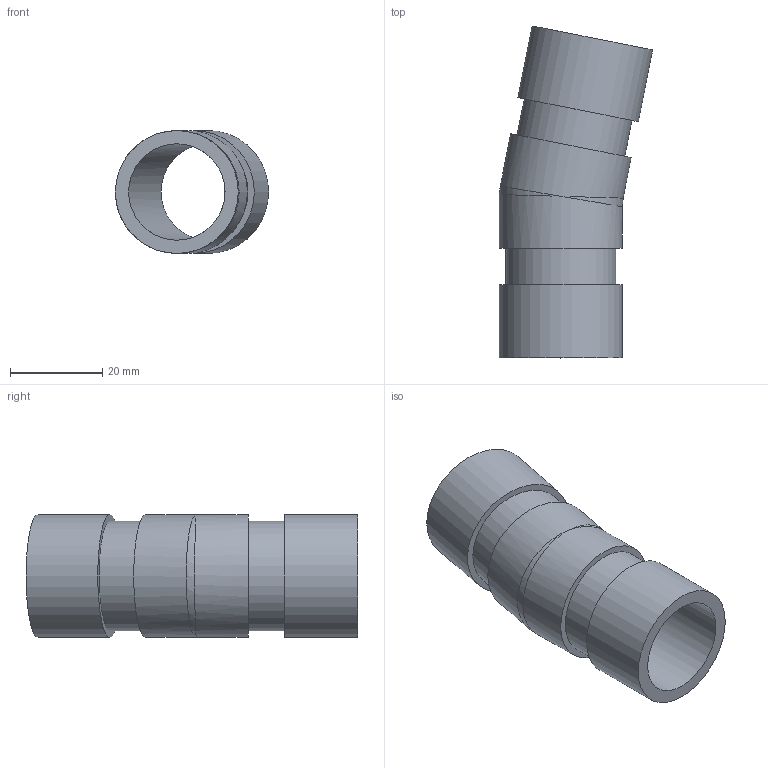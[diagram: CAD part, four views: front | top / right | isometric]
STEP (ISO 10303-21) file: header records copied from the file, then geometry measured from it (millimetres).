
FILE_DESCRIPTION(/* description */ ('VIC 11-1/4 DEG. ELBOW No 13','CAx-IF Rec.Pracs.---Representation and Presentation of Product Manufacturing Information (PMI)---4.0---2014-10-13'),/* implementation_level */ '2;1');
FILE_NAME(/* name */ 'C:\Users\kkamble\AppData\Roaming\Autodesk\ApplicationPlugins\Back Up\Victaulic_IPS_Elbow 11.25 Deg_No 13 (OGS)\Victaulic_IPS_Elbow 11.25 Deg_No 13 (OGS)_0.75 (20).stp',/* time_stamp */ '2020-07-24T08:08:40+06:00',/* author */ ('CONSTRUCTION PIPING SERVICES'),/* organization */ ('Victaulic'),/* preprocessor_version */ 'ST-DEVELOPER v17.2',/* originating_system */ 'Autodesk Inventor 2019',/* authorisation */ '');
FILE_SCHEMA (('AP242_MANAGED_MODEL_BASED_3D_ENGINEERING_MIM_LF { 1 0 10303 442 1 1 4 }'));
Length unit declared in the file: inch
Products named in the file (1): 013-0.75
Bounding box: 33.25 x 72.03 x 26.67 mm (x, y, z)
Volume: 13250.6 mm3; surface area: 11221.4 mm2
Topology: 1 solids, 1 shells, 16 faces, 37 edges, 23 vertices
Faces by surface type: cylinder 8, plane 6, bspline 2
Full cylindrical faces by diameter (mm): 20.93 x2, 23.825 x2, 26.67 x4
Entity records: 581 total; most frequent: CARTESIAN_POINT 151, DIRECTION 88, ORIENTED_EDGE 66, AXIS2_PLACEMENT_3D 40, EDGE_CURVE 33, VERTEX_POINT 23, EDGE_LOOP 22, STYLED_ITEM 17
